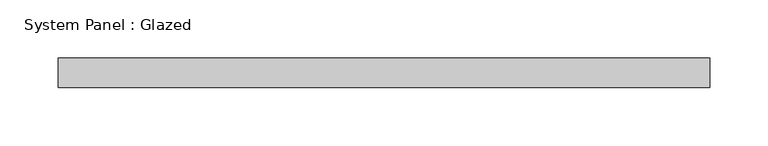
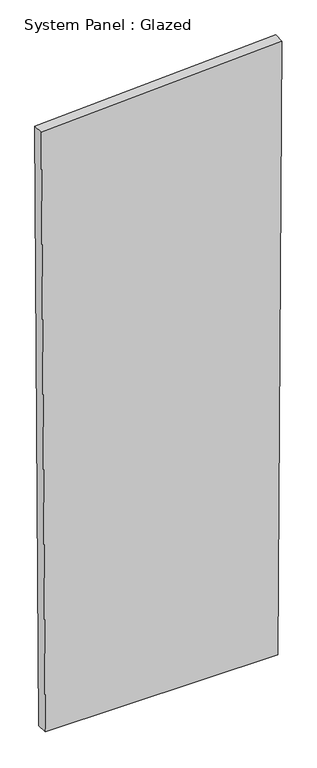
"""IFC4 building model written with IfcOpenShell, lengths in millimetres: plate geometry, System Panel : Glazed."""

import ifcopenshell
import ifcopenshell.guid

model = None  # the IFC model being written
_history = None  # IfcOwnerHistory: only IFC2X3 demands one
_inside = {}  # id of a spatial element -> (the spatial element, [elements in it])
_under = {}  # id of a project, library or spatial element -> (it, [spatial elements below it])
_declared = {}  # id of a project -> (the project, [libraries it declares])
_typed = {}  # id of a type object -> (the type object, [elements of that type])
_made_of = {}  # id of a material, layer set ... -> (it, [elements and type objects made of it])


def new_model(schema):
    """Start an empty IFC model of exactly this schema.

    Asked for "IFC4X3", IfcOpenShell would pick the latest addendum, in which some entities
    have other attributes; the version numbers below select the first issue.
    IFC2X3 requires an IfcOwnerHistory on every rooted entity: one is made here for all.
    """
    global model, _history
    if schema == "IFC4X3":
        model = ifcopenshell.file(schema_version=(4, 3, 0, 0))
    else:
        model = ifcopenshell.file(schema=schema)
    _inside.clear()
    _under.clear()
    _declared.clear()
    _typed.clear()
    _made_of.clear()
    _history = None
    if model.schema == "IFC2X3":
        org = make("IfcOrganization", Name="unknown")
        user = make(
            "IfcPersonAndOrganization",
            ThePerson=make("IfcPerson", FamilyName="unknown"),
            TheOrganization=org,
        )
        app = make(
            "IfcApplication",
            ApplicationDeveloper=org,
            Version="unknown",
            ApplicationFullName="unknown",
            ApplicationIdentifier="unknown",
        )
        _history = make(
            "IfcOwnerHistory",
            OwningUser=user,
            OwningApplication=app,
            ChangeAction="ADDED",
            CreationDate=0,
        )
    return model


def make(cls, **values):
    """One entity of the class cls with the attributes given. An attribute that is None is left unset."""
    return model.create_entity(
        cls, **{name: value for name, value in values.items() if value is not None}
    )


def rooted(cls, **values):
    """An entity with a GlobalId (a new one), such as an element, a storey or a relation."""
    return make(cls, GlobalId=ifcopenshell.guid.new(), OwnerHistory=_history, **values)


def si_unit(unit_type, name, prefix=None):
    """IfcSIUnit, for example si_unit("LENGTHUNIT", "METRE", prefix="MILLI")."""
    return make("IfcSIUnit", UnitType=unit_type, Prefix=prefix, Name=name)


def assignment(units):
    """IfcUnitAssignment: the units of a project."""
    return None if units is None else make("IfcUnitAssignment", Units=units)


def point(xyz):
    """IfcCartesianPoint."""
    return None if xyz is None else make("IfcCartesianPoint", Coordinates=xyz)


def direction(xyz):
    """IfcDirection."""
    return None if xyz is None else make("IfcDirection", DirectionRatios=xyz)


def frame(location, z_axis=None, x_axis=None):
    """IfcAxis2Placement3D, a coordinate frame: its origin and axes. An axis left out is left unset."""
    return make(
        "IfcAxis2Placement3D",
        Location=point(location),
        Axis=direction(z_axis),
        RefDirection=direction(x_axis),
    )


def origin():
    """The frame at (0, 0, 0) with its axes left unset."""
    return frame((0.0, 0.0, 0.0))


def place(relative_to, where):
    """IfcLocalPlacement: puts the frame where relative to a parent placement (None: the world)."""
    return make(
        "IfcLocalPlacement", PlacementRelTo=relative_to, RelativePlacement=where
    )


def context(
    kind, dimensions, precision=None, world=None, true_north=None, identifier=None
):
    """IfcGeometricRepresentationContext, for example the 3D "Model" context."""
    return make(
        "IfcGeometricRepresentationContext",
        ContextIdentifier=identifier,
        ContextType=kind,
        CoordinateSpaceDimension=dimensions,
        Precision=precision,
        WorldCoordinateSystem=world,
        TrueNorth=true_north,
    )


def project(units=None, contexts=None):
    """IfcProject with its units and contexts."""
    return rooted(
        "IfcProject",
        Name="project",
        RepresentationContexts=contexts,
        UnitsInContext=assignment(units),
    )


def spatial(cls, under=None, at=None, **own):
    """A site, building, storey or space (cls), placed at a placement, below another one or the project."""
    s = rooted(cls, ObjectPlacement=at, **own)
    if under is not None:
        _under.setdefault(under.id(), (under, []))[1].append(s)
    return s


def polyline(points):
    """IfcPolyline through the points."""
    return make("IfcPolyline", Points=[point(p) for p in points])


def outline(outer, holes=None, kind="AREA"):
    """IfcArbitraryClosedProfileDef: a profile drawn as a closed curve; with holes, ...WithVoids."""
    if holes is None:
        return make("IfcArbitraryClosedProfileDef", ProfileType=kind, OuterCurve=outer)
    return make(
        "IfcArbitraryProfileDefWithVoids",
        ProfileType=kind,
        OuterCurve=outer,
        InnerCurves=holes,
    )


def extrude(swept, where, along, depth):
    """IfcExtrudedAreaSolid: the profile swept, set in the frame where, extruded along a direction by depth."""
    return make(
        "IfcExtrudedAreaSolid",
        SweptArea=swept,
        Position=where,
        ExtrudedDirection=direction(along),
        Depth=depth,
    )


def shape(context_of_items, identifier, shape_type, items):
    """IfcShapeRepresentation: the items that make up one representation, for example the "Body"."""
    return make(
        "IfcShapeRepresentation",
        ContextOfItems=context_of_items,
        RepresentationIdentifier=identifier,
        RepresentationType=shape_type,
        Items=items,
    )


def source(mapping_origin, context_of_items, identifier, shape_type, items):
    """IfcRepresentationMap: a shape defined once, which mapped items show again and again."""
    return make(
        "IfcRepresentationMap",
        MappingOrigin=mapping_origin,
        MappedRepresentation=shape(context_of_items, identifier, shape_type, items),
    )


def transform(
    local_origin,
    x_axis=None,
    y_axis=None,
    z_axis=None,
    scale=None,
    scale2=None,
    scale3=None,
    uniform=True,
):
    """IfcCartesianTransformationOperator3D, or its non-uniform kind. x_axis, y_axis, z_axis: its Axis1, 2, 3."""
    if uniform:
        return make(
            "IfcCartesianTransformationOperator3D",
            Axis1=direction(x_axis),
            Axis2=direction(y_axis),
            LocalOrigin=point(local_origin),
            Scale=scale,
            Axis3=direction(z_axis),
        )
    return make(
        "IfcCartesianTransformationOperator3DnonUniform",
        Axis1=direction(x_axis),
        Axis2=direction(y_axis),
        LocalOrigin=point(local_origin),
        Scale=scale,
        Axis3=direction(z_axis),
        Scale2=scale2,
        Scale3=scale3,
    )


def mapped(mapping_source, mapping_target):
    """IfcMappedItem: shows the shape of a source again, moved by a transform."""
    return make(
        "IfcMappedItem", MappingSource=mapping_source, MappingTarget=mapping_target
    )


def made_of(thing, what):
    """Note that an element or type object is made of a material, layer set ...; save() writes the relation."""
    if what is not None:
        _made_of.setdefault(what.id(), (what, []))[1].append(thing)
    return thing


def element(
    cls,
    number,
    at=None,
    inside=None,
    cuts=None,
    type_object=None,
    material=None,
    context=None,
    identifier="Body",
    shape_type=None,
    held_by="IfcProductDefinitionShape",
    body=None,
    shapes=None,
    **own,
):
    """One element of the class cls, such as IfcWall. Its Tag is "e" and its number.

    at: its placement. inside: the storey or other place that contains it. cuts: it is an
    opening in that element (IfcRelVoidsElement). A single representation is given by context,
    identifier, shape_type and body (its items); several are given by shapes. held_by: the class
    of the entity that holds the representations. save() writes the other relations.
    """
    e = rooted(cls, Tag="e%d" % number, ObjectPlacement=at, **own)
    if body is not None:
        shapes = [shape(context, identifier, shape_type, body)]
    if shapes is not None:
        e.Representation = make(held_by, Representations=shapes)
    if inside is not None:
        _inside.setdefault(inside.id(), (inside, []))[1].append(e)
    if cuts is not None:
        rooted(
            "IfcRelVoidsElement", RelatingBuildingElement=cuts, RelatedOpeningElement=e
        )
    if type_object is not None:
        _typed.setdefault(type_object.id(), (type_object, []))[1].append(e)
    return made_of(e, material)


def aggregate(whole, parts):
    """IfcRelAggregates: a whole, such as a stair, and the parts it consists of."""
    return rooted("IfcRelAggregates", RelatingObject=whole, RelatedObjects=parts)


def save(model, path):
    """Write the relations noted so far, then the file.

    IfcRelAggregates (storeys below a building ...), IfcRelContainedInSpatialStructure (elements
    in a storey), IfcRelDefinesByType, IfcRelAssociatesMaterial and IfcRelDeclares: one each for
    every whole, place, type object, material and project.
    """
    for whole, parts in _under.values():
        aggregate(whole, parts)
    for where, things in _inside.values():
        rooted(
            "IfcRelContainedInSpatialStructure",
            RelatedElements=things,
            RelatingStructure=where,
        )
    for kind, things in _typed.values():
        rooted("IfcRelDefinesByType", RelatedObjects=things, RelatingType=kind)
    for what, things in _made_of.values():
        rooted("IfcRelAssociatesMaterial", RelatedObjects=things, RelatingMaterial=what)
    for by, libraries in _declared.values():
        rooted("IfcRelDeclares", RelatingContext=by, RelatedDefinitions=libraries)
    model.write(path)


def system_panel_glazed_492a94c8(model_context):
    return source(origin(), model_context, "Body", "SweptSolid", [
        extrude(outline(polyline([(0.0, -270.8410642), (0.0, 270.8531498), (1506.7225792, 280.0873257), (1478.2564151, -280.0873257), (0.0, -270.8410642)])), frame((0.0, -44.45, 0.0), z_axis=(0.0, 1.0, 0.0), x_axis=(0.0, 0.0, 1.0)), (0.0, 0.0, 1.0), 25.4),
    ])


if __name__ == "__main__":
    model = new_model("IFC4")
    model_context = context("Model", 3, world=origin())
    ifc_project = project(units=[si_unit("LENGTHUNIT", "METRE", prefix="MILLI")], contexts=[model_context])
    site = spatial("IfcSite", under=ifc_project)
    building = spatial("IfcBuilding", under=site)
    placement = place(None, origin())
    system_panel_glazed_shape = system_panel_glazed_492a94c8(model_context)
    element("IfcPlate", 1, ObjectType="System Panel : Glazed", at=placement, inside=building, context=model_context, shape_type="MappedRepresentation", body=[
        mapped(system_panel_glazed_shape, transform((0.0, 0.0, 0.0), x_axis=(1.0, 0.0, 0.0), y_axis=(0.0, 1.0, 0.0), z_axis=(0.0, 0.0, 1.0))),
    ])
    save(model, "model.ifc")
